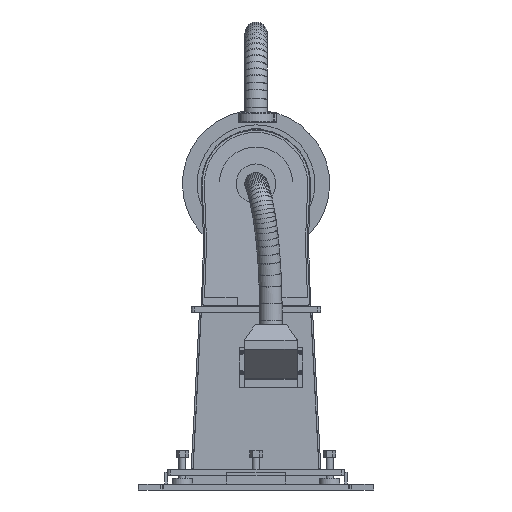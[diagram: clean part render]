
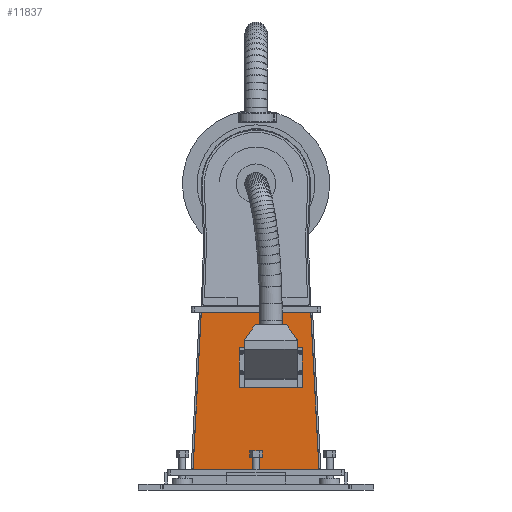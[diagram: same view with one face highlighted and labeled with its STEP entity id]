
A CAD part, left-side view. The second image highlights one B-rep face of the part: STEP entity #11837.
In plain terms, the highlighted planar face has unit normal (-1, 0, 0).
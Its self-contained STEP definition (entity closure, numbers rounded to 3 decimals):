
#9210=LINE('',#42911,#10471);
#9234=LINE('',#43174,#10495);
#9251=LINE('',#43227,#10514);
#9274=LINE('',#43316,#10537);
#10471=VECTOR('',#31343,1.);
#10495=VECTOR('',#31421,1.);
#10514=VECTOR('',#31468,1.);
#10537=VECTOR('',#31565,1.);
#11837=ADVANCED_FACE('',(#13617,#13618,#13619,#13620,#13621),#12815,.T.);
#12815=PLANE('',#27994);
#13617=FACE_BOUND('',#15085,.T.);
#13618=FACE_BOUND('',#15086,.T.);
#13619=FACE_BOUND('',#15087,.T.);
#13620=FACE_BOUND('',#15088,.T.);
#13621=FACE_BOUND('',#15089,.T.);
#15085=EDGE_LOOP('',(#18505,#18506,#18507,#18508));
#15086=EDGE_LOOP('',(#18509));
#15087=EDGE_LOOP('',(#18510));
#15088=EDGE_LOOP('',(#18511));
#15089=EDGE_LOOP('',(#18512));
#18505=ORIENTED_EDGE('',*,*,#24583,.F.);
#18506=ORIENTED_EDGE('',*,*,#24558,.F.);
#18507=ORIENTED_EDGE('',*,*,#24512,.F.);
#18508=ORIENTED_EDGE('',*,*,#24625,.F.);
#18509=ORIENTED_EDGE('',*,*,#24636,.T.);
#18510=ORIENTED_EDGE('',*,*,#24637,.T.);
#18511=ORIENTED_EDGE('',*,*,#24638,.T.);
#18512=ORIENTED_EDGE('',*,*,#24639,.T.);
#22293=VERTEX_POINT('',#42912);
#22294=VERTEX_POINT('',#42913);
#22329=VERTEX_POINT('',#43175);
#22347=VERTEX_POINT('',#43228);
#22381=VERTEX_POINT('',#43343);
#22382=VERTEX_POINT('',#43346);
#22383=VERTEX_POINT('',#43349);
#22384=VERTEX_POINT('',#43352);
#24512=EDGE_CURVE('',#22293,#22294,#9210,.T.);
#24558=EDGE_CURVE('',#22294,#22329,#9234,.T.);
#24583=EDGE_CURVE('',#22329,#22347,#9251,.T.);
#24625=EDGE_CURVE('',#22347,#22293,#9274,.T.);
#24636=EDGE_CURVE('',#22381,#22381,#26500,.T.);
#24637=EDGE_CURVE('',#22382,#22382,#26501,.T.);
#24638=EDGE_CURVE('',#22383,#22383,#26502,.T.);
#24639=EDGE_CURVE('',#22384,#22384,#26503,.T.);
#26500=CIRCLE('',#27977,2.5);
#26501=CIRCLE('',#27979,2.5);
#26502=CIRCLE('',#27981,2.5);
#26503=CIRCLE('',#27983,2.5);
#27977=AXIS2_PLACEMENT_3D('',#43342,#31601,#31602);
#27979=AXIS2_PLACEMENT_3D('',#43345,#31605,#31606);
#27981=AXIS2_PLACEMENT_3D('',#43348,#31609,#31610);
#27983=AXIS2_PLACEMENT_3D('',#43351,#31613,#31614);
#27994=AXIS2_PLACEMENT_3D('',#43364,#31638,#31639);
#31343=DIRECTION('',(0.,1.,0.));
#31421=DIRECTION('',(0.,-0.052,0.999));
#31468=DIRECTION('',(0.,-1.,0.));
#31565=DIRECTION('',(0.,-0.052,-0.999));
#31601=DIRECTION('',(1.,0.,0.));
#31602=DIRECTION('',(0.,0.,1.));
#31605=DIRECTION('',(1.,0.,0.));
#31606=DIRECTION('',(0.,0.,1.));
#31609=DIRECTION('',(1.,0.,0.));
#31610=DIRECTION('',(0.,0.,1.));
#31613=DIRECTION('',(1.,0.,0.));
#31614=DIRECTION('',(0.,0.,1.));
#31638=DIRECTION('',(-1.,0.,0.));
#31639=DIRECTION('',(0.,0.,-1.));
#42911=CARTESIAN_POINT('',(-1038.8,-213.,20.5));
#42912=CARTESIAN_POINT('',(-1038.8,-213.669,20.5));
#42913=CARTESIAN_POINT('',(-1038.8,213.669,20.5));
#43174=CARTESIAN_POINT('',(-1038.8,185.64,555.314));
#43175=CARTESIAN_POINT('',(-1038.8,185.736,553.5));
#43227=CARTESIAN_POINT('',(-1038.8,275.,553.5));
#43228=CARTESIAN_POINT('',(-1038.8,-185.736,553.5));
#43316=CARTESIAN_POINT('',(-1038.8,-214.129,11.722));
#43342=CARTESIAN_POINT('',(-1038.8,-150.,418.5));
#43343=CARTESIAN_POINT('',(-1038.8,-150.,421.));
#43345=CARTESIAN_POINT('',(-1038.8,-150.,348.5));
#43346=CARTESIAN_POINT('',(-1038.8,-150.,351.));
#43348=CARTESIAN_POINT('',(-1038.8,48.7,418.5));
#43349=CARTESIAN_POINT('',(-1038.8,48.7,421.));
#43351=CARTESIAN_POINT('',(-1038.8,48.7,348.5));
#43352=CARTESIAN_POINT('',(-1038.8,48.7,351.));
#43364=CARTESIAN_POINT('',(-1038.8,0.,0.5));
